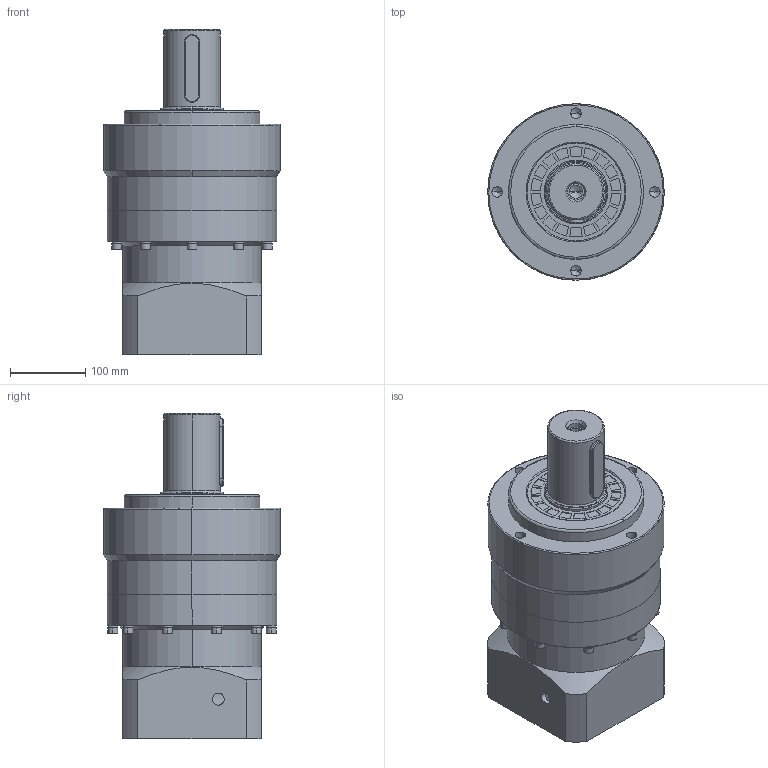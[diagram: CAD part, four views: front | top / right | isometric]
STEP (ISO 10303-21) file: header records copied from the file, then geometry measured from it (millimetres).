
FILE_DESCRIPTION (( 'STEP AP214' ), '1' );
FILE_NAME ('FE235-L2-42-114.3-200-M12-116.STEP', '2020-03-11T03:30:49', ( '微软用户' ), ( '微软中国' ), 'SwSTEP 2.0', 'SolidWorks 2014', '' );
FILE_SCHEMA (( 'AUTOMOTIVE_DESIGN' ));
Length unit declared in the file: millimetre
Products named in the file (2): FE235-L2-42-114.3-200-M12-116
Bounding box: 235 x 235 x 433 mm (x, y, z)
Volume: 11408025.9 mm3; surface area: 519673.7 mm2
Topology: 2 solids, 2 shells, 1185 faces, 3158 edges, 2066 vertices
Faces by surface type: plane 834, cylinder 185, bspline 66, torus 55, cone 45
Entity records: 46645 total; most frequent: CARTESIAN_POINT 10348, ORIENTED_EDGE 6280, DIRECTION 5752, EDGE_CURVE 3140, LINE 2404, VECTOR 2404, VERTEX_POINT 2066, AXIS2_PLACEMENT_3D 1674
